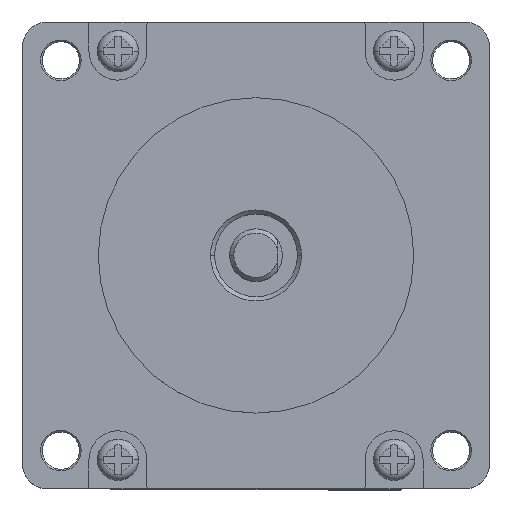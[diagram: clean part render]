
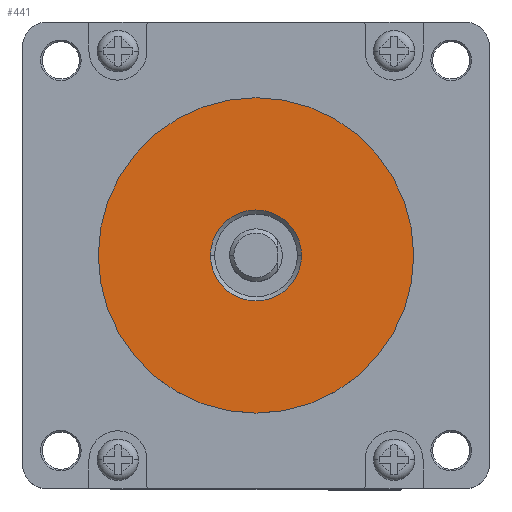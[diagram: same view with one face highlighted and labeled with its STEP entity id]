
A CAD part, top view. The second image highlights one B-rep face of the part: STEP entity #441.
In plain terms, the highlighted planar face has unit normal (0, 0, 1).
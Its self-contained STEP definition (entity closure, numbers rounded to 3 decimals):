
#76 = EDGE_CURVE ( 'NONE', #6012, #6024, #806, .T. ) ;
#82 = EDGE_CURVE ( 'NONE', #6160, #6040, #815, .T. ) ;
#441 = ADVANCED_FACE ( 'NONE', ( #5104, #5109 ), #2755, .T. ) ;
#547 = DIRECTION ( 'NONE',  ( 1., 0., 0. ) ) ;
#549 = DIRECTION ( 'NONE',  ( 0., 0., 1. ) ) ;
#556 = CARTESIAN_POINT ( 'NONE',  ( 0., 0., 4.1 ) ) ;
#609 = DIRECTION ( 'NONE',  ( 1., 0., 0. ) ) ;
#612 = DIRECTION ( 'NONE',  ( 0., 0., -1. ) ) ;
#631 = CARTESIAN_POINT ( 'NONE',  ( 0., 0., 4.1 ) ) ;
#806 = CIRCLE ( 'NONE', #7364, 5.5 ) ;
#815 = CIRCLE ( 'NONE', #7366, 19.05 ) ;
#1091 = CIRCLE ( 'NONE', #7787, 19.05 ) ;
#1107 = CIRCLE ( 'NONE', #7792, 5.5 ) ;
#1992 = ORIENTED_EDGE ( 'NONE', *, *, #6361, .T. ) ;
#1993 = ORIENTED_EDGE ( 'NONE', *, *, #82, .T. ) ;
#1994 = ORIENTED_EDGE ( 'NONE', *, *, #76, .T. ) ;
#1995 = ORIENTED_EDGE ( 'NONE', *, *, #6372, .T. ) ;
#2754 = CARTESIAN_POINT ( 'NONE',  ( 0., 0., 4.1 ) ) ;
#2755 = PLANE ( 'NONE',  #7615 ) ;
#2756 = DIRECTION ( 'NONE',  ( 0., 0., 1. ) ) ;
#2757 = DIRECTION ( 'NONE',  ( 1., 0., 0. ) ) ;
#3561 = CARTESIAN_POINT ( 'NONE',  ( -5.5, 0., 4.1 ) ) ;
#3573 = CARTESIAN_POINT ( 'NONE',  ( 5.5, 0., 4.1 ) ) ;
#3589 = CARTESIAN_POINT ( 'NONE',  ( 19.05, 0., 4.1 ) ) ;
#3709 = CARTESIAN_POINT ( 'NONE',  ( -19.05, 0., 4.1 ) ) ;
#4735 = CARTESIAN_POINT ( 'NONE',  ( 0., 0., 4.1 ) ) ;
#4744 = DIRECTION ( 'NONE',  ( 0., 0., 1. ) ) ;
#4745 = DIRECTION ( 'NONE',  ( 1., 0., 0. ) ) ;
#4768 = CARTESIAN_POINT ( 'NONE',  ( 0., 0., 4.1 ) ) ;
#4775 = DIRECTION ( 'NONE',  ( 0., 0., -1. ) ) ;
#4776 = DIRECTION ( 'NONE',  ( 1., 0., 0. ) ) ;
#5104 = FACE_BOUND ( 'NONE', #7131, .T. ) ;
#5109 = FACE_OUTER_BOUND ( 'NONE', #7128, .T. ) ;
#6012 = VERTEX_POINT ( 'NONE', #3561 ) ;
#6024 = VERTEX_POINT ( 'NONE', #3573 ) ;
#6040 = VERTEX_POINT ( 'NONE', #3589 ) ;
#6160 = VERTEX_POINT ( 'NONE', #3709 ) ;
#6361 = EDGE_CURVE ( 'NONE', #6040, #6160, #1091, .T. ) ;
#6372 = EDGE_CURVE ( 'NONE', #6024, #6012, #1107, .T. ) ;
#7128 = EDGE_LOOP ( 'NONE', ( #1993, #1992 ) ) ;
#7131 = EDGE_LOOP ( 'NONE', ( #1995, #1994 ) ) ;
#7364 = AXIS2_PLACEMENT_3D ( 'NONE', #631, #612, #609 ) ;
#7366 = AXIS2_PLACEMENT_3D ( 'NONE', #556, #549, #547 ) ;
#7615 = AXIS2_PLACEMENT_3D ( 'NONE', #2754, #2756, #2757 ) ;
#7787 = AXIS2_PLACEMENT_3D ( 'NONE', #4735, #4744, #4745 ) ;
#7792 = AXIS2_PLACEMENT_3D ( 'NONE', #4768, #4775, #4776 ) ;
